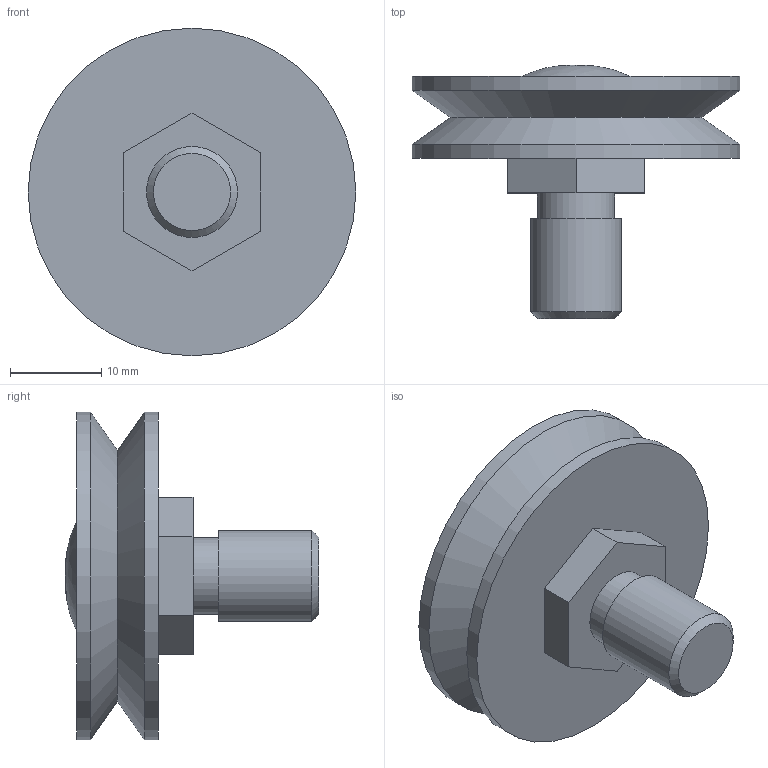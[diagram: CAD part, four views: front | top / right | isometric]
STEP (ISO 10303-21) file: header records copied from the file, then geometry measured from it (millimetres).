
FILE_DESCRIPTION( ( 'STEP AP203' ), '1' );
FILE_NAME( 'p:/temp/worker_133/temp/exporttempdir_5812_973_3MvAo/format_0/GBHJ360C.stp', '2021-09-29T06:42:47', ( 'License CC BY-ND 4.0' ), ( 'CADENAS' ), ' ', 'PARTsolutions', ' ' );
FILE_SCHEMA( ( 'CONFIG_CONTROL_DESIGN' ) );
Length unit declared in the file: millimetre
Products named in the file (2): GBHJ360C; _BHJ360C_C
Assembly tree (1 placements, depth 2):
  GBHJ360C
    _BHJ360C_C
Bounding box: 36 x 27.82 x 36 mm (x, y, z)
Volume: 9695.1 mm3; surface area: 4066.7 mm2
Topology: 1 solids, 1 shells, 19 faces, 39 edges, 25 vertices
Faces by surface type: plane 11, cylinder 4, cone 3, bspline 1
Full cylindrical faces by diameter (mm): 8.466 x1, 10 x1, 36 x2
Entity records: 548 total; most frequent: CARTESIAN_POINT 101, DIRECTION 80, ORIENTED_EDGE 58, AXIS2_PLACEMENT_3D 31, EDGE_LOOP 30, EDGE_CURVE 29, VERTEX_POINT 24, FACE_OUTER_BOUND 23
